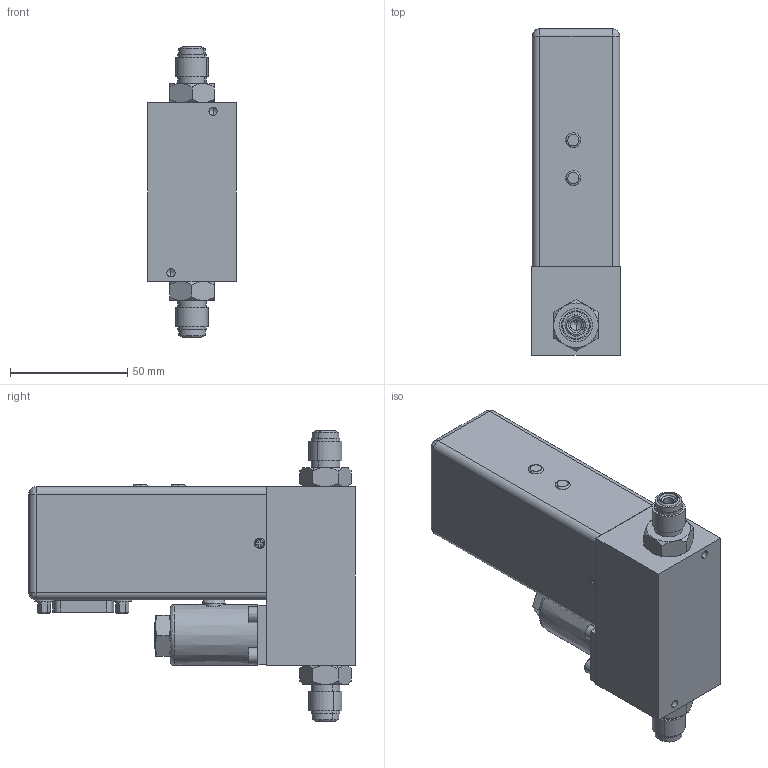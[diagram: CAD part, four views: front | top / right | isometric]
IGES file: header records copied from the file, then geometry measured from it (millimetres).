
Start section: SolidWorks IGES file using analytic representation for surfaces
Global section: file name: G:\Engineering\CAD MODELS FOR SALES\CAD MODEL STORAGE\5850IA\CUSTOMER FILES\IGES\5850IA-1-B-G.IGS; native system: SolidWorks 2020; preprocessor: SolidWorks 2020; author: CFehr; date: 220830.140814; units: inch
Bounding box: 37.72 x 139.32 x 124.1 mm (x, y, z)
Volume: 143992.4 mm3; surface area: 83976.9 mm2
Topology: 29 solids, 29 shells, 770 faces, 1733 edges, 1067 vertices
Faces by surface type: revolution 427, plane 279, bspline 64
